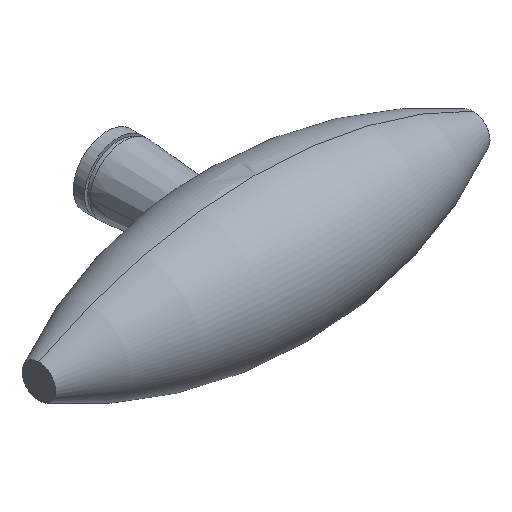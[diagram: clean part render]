
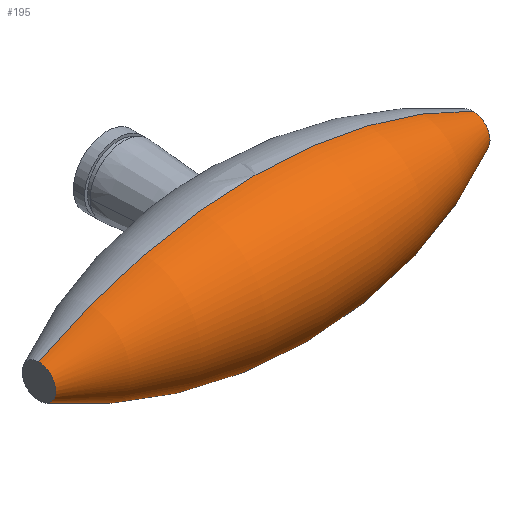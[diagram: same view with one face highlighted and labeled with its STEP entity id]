
A CAD part, isometric view. The second image highlights one B-rep face of the part: STEP entity #195.
In plain terms, the highlighted toroidal (fillet/blend) face has major radius 70.638 mm and minor radius 83.188 mm.
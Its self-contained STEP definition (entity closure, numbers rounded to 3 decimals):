
#107 = VERTEX_POINT( '', #271 );
#111 = VERTEX_POINT( '', #275 );
#159 = VERTEX_POINT( '', #331 );
#161 = EDGE_CURVE( '', #111, #159, #333, .T. );
#177 = EDGE_CURVE( '', #111, #201, #350, .T. );
#179 = EDGE_CURVE( '', #201, #107, #352, .T. );
#189 = EDGE_CURVE( '', #107, #159, #364, .T. );
#195 = ADVANCED_FACE( '', ( #370 ), #371, .T. );
#201 = VERTEX_POINT( '', #377 );
#271 = CARTESIAN_POINT( '', ( 38.7, -26.55, 3. ) );
#275 = CARTESIAN_POINT( '', ( -38.7, -26.55, -3. ) );
#331 = CARTESIAN_POINT( '', ( -38.7, -26.55, 3. ) );
#333 = CIRCLE( '', #548, 3. );
#350 = CIRCLE( '', #570, 83.188 );
#352 = CIRCLE( '', #573, 3. );
#364 = CIRCLE( '', #587, 83.188 );
#370 = FACE_OUTER_BOUND( '', #595, .T. );
#371 = TOROIDAL_SURFACE( '', #596, -70.638, 83.188 );
#377 = CARTESIAN_POINT( '', ( 38.7, -26.55, -3. ) );
#548 = AXIS2_PLACEMENT_3D( '', #772, #773, #774 );
#570 = AXIS2_PLACEMENT_3D( '', #794, #795, #796 );
#573 = AXIS2_PLACEMENT_3D( '', #797, #798, #799 );
#587 = AXIS2_PLACEMENT_3D( '', #816, #817, #818 );
#595 = EDGE_LOOP( '', ( #821, #822, #823, #824 ) );
#596 = AXIS2_PLACEMENT_3D( '', #825, #826, #827 );
#772 = CARTESIAN_POINT( '', ( -38.7, -26.55, 0. ) );
#773 = DIRECTION( '', ( -1., 0., 0. ) );
#774 = DIRECTION( '', ( 0., 1., 0. ) );
#794 = CARTESIAN_POINT( '', ( 0., -26.55, 70.638 ) );
#795 = DIRECTION( '', ( 0., -1., 0. ) );
#796 = DIRECTION( '', ( 0., 0., -1. ) );
#797 = CARTESIAN_POINT( '', ( 38.7, -26.55, 0. ) );
#798 = DIRECTION( '', ( -1., 0., 0. ) );
#799 = DIRECTION( '', ( 0., 1., 0. ) );
#816 = CARTESIAN_POINT( '', ( 0., -26.55, -70.638 ) );
#817 = DIRECTION( '', ( 0., -1., 0. ) );
#818 = DIRECTION( '', ( 0., 0., 1. ) );
#821 = ORIENTED_EDGE( '', *, *, #189, .T. );
#822 = ORIENTED_EDGE( '', *, *, #161, .F. );
#823 = ORIENTED_EDGE( '', *, *, #177, .T. );
#824 = ORIENTED_EDGE( '', *, *, #179, .T. );
#825 = CARTESIAN_POINT( '', ( 0., -26.55, 0. ) );
#826 = DIRECTION( '', ( -1., 0., 0. ) );
#827 = DIRECTION( '', ( 0., 0., 1. ) );
